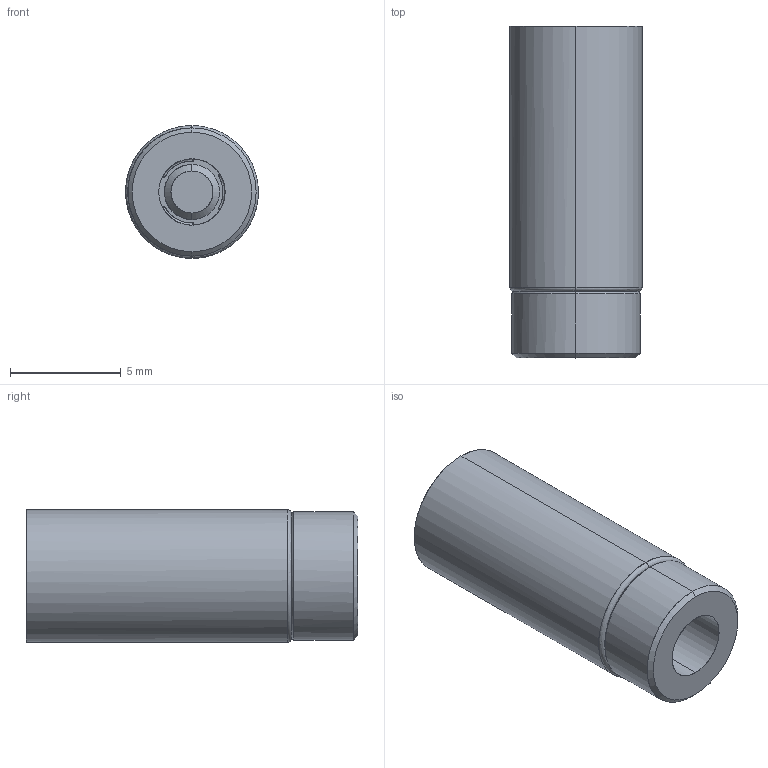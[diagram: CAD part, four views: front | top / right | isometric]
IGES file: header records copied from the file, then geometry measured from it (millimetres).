
Start section: START RECORD GO HERE.
Global section: file name: vh065215.igs; native system: DASSAULT SYSTEMES CATIA V5 R20 - www.3ds.com; preprocessor: CATIA Version 5 Release 20 ; author: Utente; organization: NB04-ASUS; date: 20201107.134601; units: millimetre
Bounding box: 6 x 15 x 6 mm (x, y, z)
Surface area: 778.4 mm2 (no closed solid volume)
Topology: 0 solids, 0 shells, 128 faces, 620 edges, 620 vertices
Faces by surface type: revolution 70, plane 42, bspline 16
